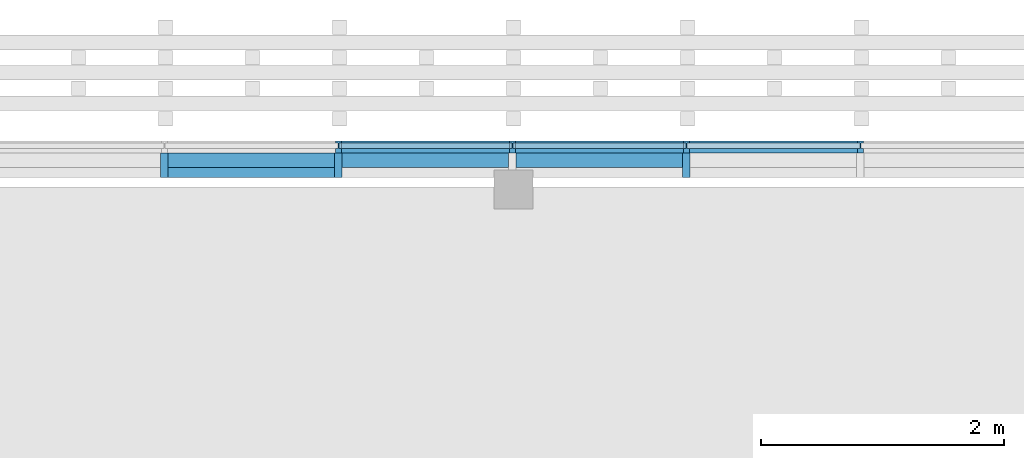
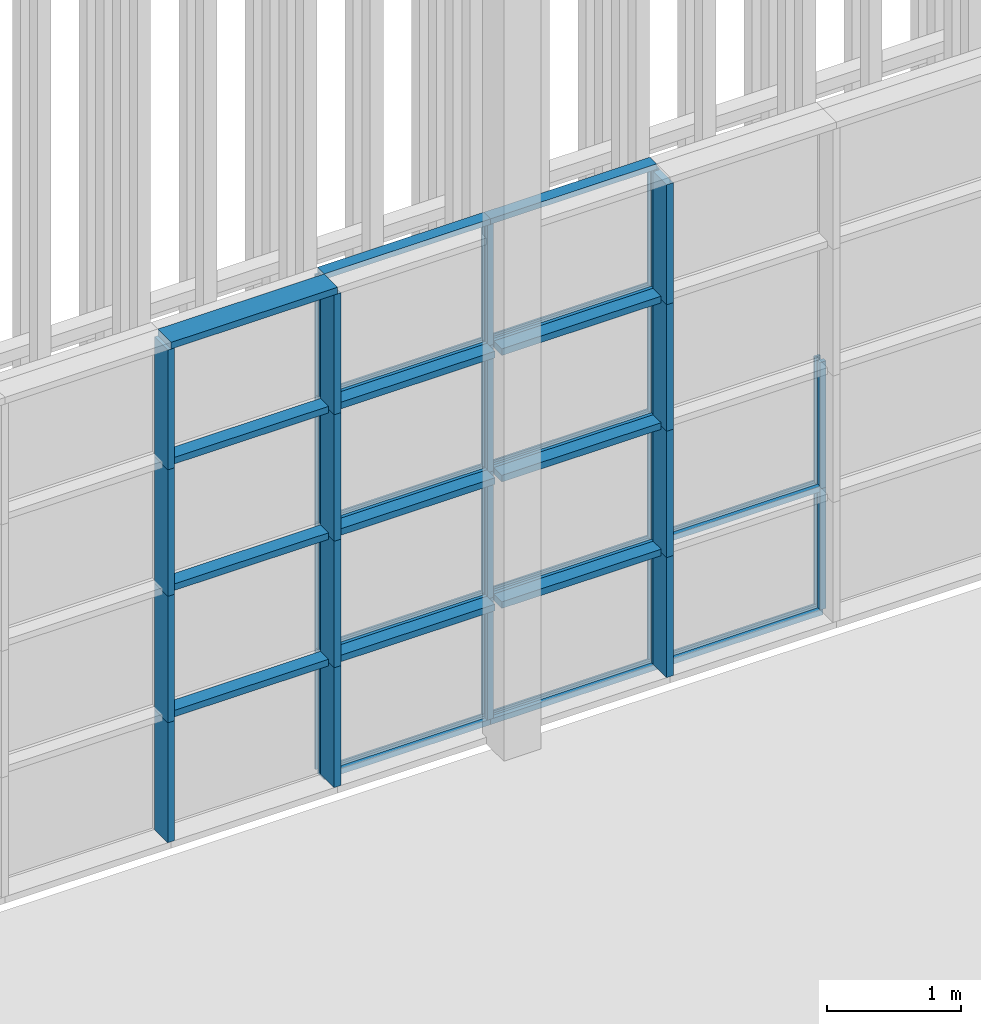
# One storey, part 35 of 260: 48 members, 2 elements without a shape of their own.
"""IFC2X3 building model written with IfcOpenShell, lengths in millimetres."""

from ifc_helpers import new_model, entity, si_unit, converted_unit, derived_unit, money_unit, direction, frame, origin_with_axes, place, context, subcontext, project, spatial, faceted_brep, source, transform, mapped, material, type_object, element, aggregate, save


model = new_model("IFC2X3")

# Units and contexts
model_context = context("Model", 3, precision=0.01, world=origin_with_axes(), true_north=direction((0.0, 1.0)))
body_context = subcontext(model_context, "Body", "Model", "MODEL_VIEW")
ifc_project = project(units=[si_unit("LENGTHUNIT", "METRE", prefix="MILLI"), si_unit("AREAUNIT", "SQUARE_METRE"), si_unit("VOLUMEUNIT", "CUBIC_METRE"), converted_unit("PLANEANGLEUNIT", "DEGREE", entity("IfcPlaneAngleMeasure", 0.0174532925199), si_unit("PLANEANGLEUNIT", "RADIAN"), dimensions=[0, 0, 0, 0, 0, 0, 0]), money_unit("EUR"), converted_unit("TIMEUNIT", "Year", entity("IfcTimeMeasure", 31556926.0), si_unit("TIMEUNIT", "SECOND"), dimensions=[0, 0, 1, 0, 0, 0, 0]), si_unit("MASSUNIT", "GRAM", prefix="KILO"), si_unit("THERMODYNAMICTEMPERATUREUNIT", "DEGREE_CELSIUS"), si_unit("LUMINOUSINTENSITYUNIT", "LUMEN"), si_unit("ENERGYUNIT", "JOULE", prefix="MEGA"), derived_unit("THERMALCONDUCTANCEUNIT", [(si_unit("POWERUNIT", "WATT"), 1), (si_unit("LENGTHUNIT", "METRE"), -1), (si_unit("THERMODYNAMICTEMPERATUREUNIT", "KELVIN"), -1)]), derived_unit("SPECIFICHEATCAPACITYUNIT", [(si_unit("ENERGYUNIT", "JOULE"), 1), (si_unit("MASSUNIT", "GRAM", prefix="KILO"), -1), (si_unit("THERMODYNAMICTEMPERATUREUNIT", "KELVIN"), -1)]), derived_unit("MASSDENSITYUNIT", [(si_unit("MASSUNIT", "GRAM", prefix="KILO"), 1), (si_unit("VOLUMEUNIT", "CUBIC_METRE"), -1)])], contexts=[model_context])

# Site, building, storey
site_placement = place(None, origin_with_axes())
site = spatial("IfcSite", under=ifc_project, at=site_placement, Name="Kolde pst 67a", CompositionType="ELEMENT")
building_placement = place(site_placement, origin_with_axes())
building = spatial("IfcBuilding", under=site, at=building_placement, Name="Riigigümnaasium", CompositionType="ELEMENT")
storey_placement = place(building_placement, origin_with_axes())
storey = spatial("IfcBuildingStorey", under=building, at=storey_placement, Name="1. korrus", CompositionType="ELEMENT", Elevation=0.0)

# Curtain wall, members
curtain_wall_type = type_object("IfcCurtainWallType", Name="Curtain Wall Type", PredefinedType="NOTDEFINED")
curtain_wall_1_placement = place(storey_placement, frame((10366.0828546, 84639.9999608, 0.0), z_axis=(0.0, 0.0, 1.0), x_axis=(1.0, 0.0, 0.0)))
curtain_wall_1 = element("IfcCurtainWall", 1, at=curtain_wall_1_placement, inside=storey, type_object=curtain_wall_type, Name="KLAASFASSAAD")
ifc_material_1 = material(Name="_METALL - alumiinium")
member_type_1 = type_object("IfcMemberType", Name="Boundary Frame 50 x 100", PredefinedType="MEMBER")
shared_shape_1 = source(origin_with_axes(), body_context, "Body", "Brep", [
    faceted_brep([(-30.0, -24.0, 1430.0), (-50.0, -24.0, 1430.0), (-50.0, -60.0, 1430.0), (0.0, -60.0, 1430.0), (0.0, 40.0, 1430.0), (-50.0, 40.0, 1430.0), (-50.0, 24.0, 1430.0), (-30.0, 24.0, 1430.0), (-30.0, -24.0, 0.0), (-50.0, -24.0, 0.0), (-50.0, -60.0, 0.0), (0.0, -60.0, 0.0), (0.0, 40.0, 0.0), (-50.0, 40.0, 0.0), (-50.0, 24.0, 0.0), (-30.0, 24.0, 0.0)], [[[0, 1, 2, 3, 4, 5, 6, 7]], [[0, 8, 9, 1]], [[9, 10, 2, 1]], [[10, 11, 3, 2]], [[11, 12, 4, 3]], [[12, 13, 5, 4]], [[6, 5, 13, 14]], [[14, 15, 7, 6]], [[7, 15, 8, 0]], [[8, 15, 14, 13, 12, 11, 10, 9]]]),
])
member_1_placement = place(curtain_wall_1_placement, frame((15015.0, 0.0, 0.0), z_axis=(1.0, 0.0, 0.0), x_axis=(0.0, 0.0, 1.0)))
member_1 = element("IfcMember", 2, at=member_1_placement, type_object=member_type_1, material=ifc_material_1, Name="RF RAAM SERV-087", ObjectType="MEMBER", context=body_context, shape_type="MappedRepresentation", body=[
    mapped(shared_shape_1, transform((0.0, 0.0, 0.0), x_axis=(-1.0, 0.0, 0.0), y_axis=(0.0, -1.0, 0.0), z_axis=(0.0, 0.0, 1.0))),
])
member_2_placement = place(curtain_wall_1_placement, frame((16445.0, 0.0, 0.0), z_axis=(1.0, 0.0, 0.0), x_axis=(0.0, 0.0, 1.0)))
member_2 = element("IfcMember", 3, at=member_2_placement, type_object=member_type_1, material=ifc_material_1, Name="RF RAAM SERV-088", ObjectType="MEMBER", context=body_context, shape_type="MappedRepresentation", body=[
    mapped(shared_shape_1, transform((0.0, 0.0, 0.0), x_axis=(-1.0, 0.0, 0.0), y_axis=(0.0, -1.0, 0.0), z_axis=(0.0, 0.0, 1.0))),
])
member_3_placement = place(curtain_wall_1_placement, frame((17875.0, 0.0, 0.0), z_axis=(1.0, 0.0, 0.0), x_axis=(0.0, 0.0, 1.0)))
member_3 = element("IfcMember", 4, at=member_3_placement, type_object=member_type_1, material=ifc_material_1, Name="RF RAAM SERV-089", ObjectType="MEMBER", context=body_context, shape_type="MappedRepresentation", body=[
    mapped(shared_shape_1, transform((0.0, 0.0, 0.0), x_axis=(-1.0, 0.0, 0.0), y_axis=(0.0, -1.0, 0.0), z_axis=(0.0, 0.0, 1.0))),
])
member_type_2 = type_object("IfcMemberType", Name="Transom Frame 50 x 100", PredefinedType="MEMBER")
shared_shape_2 = source(origin_with_axes(), body_context, "Body", "Brep", [
    faceted_brep([(5.0, -24.0, 1405.0), (5.0, 24.0, 1405.0), (25.0, 24.0, 1405.0), (25.0, 40.0, 1405.0), (-25.0, 40.0, 1405.0), (-25.0, 24.0, 1405.0), (-5.0, 24.0, 1405.0), (-5.0, -24.0, 1405.0), (-25.0, -24.0, 1405.0), (-25.0, -60.0, 1405.0), (25.0, -60.0, 1405.0), (25.0, -24.0, 1405.0), (5.0, -24.0, 25.0), (5.0, 24.0, 25.0), (25.0, 24.0, 25.0), (25.0, 40.0, 25.0), (-25.0, 40.0, 25.0), (-25.0, 24.0, 25.0), (-5.0, 24.0, 25.0), (-5.0, -24.0, 25.0), (-25.0, -24.0, 25.0), (-25.0, -60.0, 25.0), (25.0, -60.0, 25.0), (25.0, -24.0, 25.0)], [[[0, 1, 2, 3, 4, 5, 6, 7, 8, 9, 10, 11]], [[0, 12, 13, 1]], [[1, 13, 14, 2]], [[14, 15, 3, 2]], [[4, 3, 15, 16]], [[17, 5, 4, 16]], [[5, 17, 18, 6]], [[7, 6, 18, 19]], [[8, 7, 19, 20]], [[8, 20, 21, 9]], [[10, 9, 21, 22]], [[11, 10, 22, 23]], [[11, 23, 12, 0]], [[13, 12, 23, 22, 21, 20, 19, 18, 17, 16, 15, 14]]]),
])
member_4_placement = place(curtain_wall_1_placement, frame((15015.0, 0.0, 1150.0), z_axis=(1.0, 0.0, 0.0), x_axis=(0.0, 0.0, 1.0)))
member_4 = element("IfcMember", 5, at=member_4_placement, type_object=member_type_2, material=ifc_material_1, Name="RF RAAM HOR-798", ObjectType="MEMBER", context=body_context, shape_type="MappedRepresentation", body=[
    mapped(shared_shape_2, transform((0.0, 0.0, 0.0), x_axis=(-1.0, 0.0, 0.0), y_axis=(0.0, -1.0, 0.0), z_axis=(0.0, 0.0, 1.0))),
])
member_5_placement = place(curtain_wall_1_placement, frame((16445.0, 0.0, 1150.0), z_axis=(1.0, 0.0, 0.0), x_axis=(0.0, 0.0, 1.0)))
member_5 = element("IfcMember", 6, at=member_5_placement, type_object=member_type_2, material=ifc_material_1, Name="RF RAAM HOR-798", ObjectType="MEMBER", context=body_context, shape_type="MappedRepresentation", body=[
    mapped(shared_shape_2, transform((0.0, 0.0, 0.0), x_axis=(-1.0, 0.0, 0.0), y_axis=(0.0, -1.0, 0.0), z_axis=(0.0, 0.0, 1.0))),
])
member_6_placement = place(curtain_wall_1_placement, frame((17875.0, 0.0, 1150.0), z_axis=(1.0, 0.0, 0.0), x_axis=(0.0, 0.0, 1.0)))
member_6 = element("IfcMember", 7, at=member_6_placement, type_object=member_type_2, material=ifc_material_1, Name="RF RAAM HOR-798", ObjectType="MEMBER", context=body_context, shape_type="MappedRepresentation", body=[
    mapped(shared_shape_2, transform((0.0, 0.0, 0.0), x_axis=(-1.0, 0.0, 0.0), y_axis=(0.0, -1.0, 0.0), z_axis=(0.0, 0.0, 1.0))),
])
member_7_placement = place(curtain_wall_1_placement, frame((15015.0, 0.0, 2300.0), z_axis=(1.0, 0.0, 0.0), x_axis=(0.0, 0.0, 1.0)))
member_7 = element("IfcMember", 8, at=member_7_placement, type_object=member_type_2, material=ifc_material_1, Name="RF RAAM HOR-798", ObjectType="MEMBER", context=body_context, shape_type="MappedRepresentation", body=[
    mapped(shared_shape_2, transform((0.0, 0.0, 0.0), x_axis=(-1.0, 0.0, 0.0), y_axis=(0.0, -1.0, 0.0), z_axis=(0.0, 0.0, 1.0))),
])
member_8_placement = place(curtain_wall_1_placement, frame((16445.0, 0.0, 2300.0), z_axis=(1.0, 0.0, 0.0), x_axis=(0.0, 0.0, 1.0)))
member_8 = element("IfcMember", 9, at=member_8_placement, type_object=member_type_2, material=ifc_material_1, Name="RF RAAM HOR-798", ObjectType="MEMBER", context=body_context, shape_type="MappedRepresentation", body=[
    mapped(shared_shape_2, transform((0.0, 0.0, 0.0), x_axis=(-1.0, 0.0, 0.0), y_axis=(0.0, -1.0, 0.0), z_axis=(0.0, 0.0, 1.0))),
])
member_9_placement = place(curtain_wall_1_placement, frame((15015.0, 0.0, 3450.0), z_axis=(1.0, 0.0, 0.0), x_axis=(0.0, 0.0, 1.0)))
member_9 = element("IfcMember", 10, at=member_9_placement, type_object=member_type_2, material=ifc_material_1, Name="RF RAAM HOR-798", ObjectType="MEMBER", context=body_context, shape_type="MappedRepresentation", body=[
    mapped(shared_shape_2, transform((0.0, 0.0, 0.0), x_axis=(-1.0, 0.0, 0.0), y_axis=(0.0, -1.0, 0.0), z_axis=(0.0, 0.0, 1.0))),
])
member_10_placement = place(curtain_wall_1_placement, frame((16445.0, 0.0, 3450.0), z_axis=(1.0, 0.0, 0.0), x_axis=(0.0, 0.0, 1.0)))
member_10 = element("IfcMember", 11, at=member_10_placement, type_object=member_type_2, material=ifc_material_1, Name="RF RAAM HOR-798", ObjectType="MEMBER", context=body_context, shape_type="MappedRepresentation", body=[
    mapped(shared_shape_2, transform((0.0, 0.0, 0.0), x_axis=(-1.0, 0.0, 0.0), y_axis=(0.0, -1.0, 0.0), z_axis=(0.0, 0.0, 1.0))),
])
member_type_3 = type_object("IfcMemberType", Name="Mullion Frame 50 x 100", PredefinedType="MEMBER")
shared_shape_3 = source(origin_with_axes(), body_context, "Body", "Brep", [
    faceted_brep([(5.0, -24.0, 1150.0), (5.0, 24.0, 1150.0), (25.0, 24.0, 1150.0), (25.0, 40.0, 1150.0), (-25.0, 40.0, 1150.0), (-25.0, 24.0, 1150.0), (-5.0, 24.0, 1150.0), (-5.0, -24.0, 1150.0), (-25.0, -24.0, 1150.0), (-25.0, -60.0, 1150.0), (25.0, -60.0, 1150.0), (25.0, -24.0, 1150.0), (5.0, -24.0, 50.0), (5.0, 24.0, 50.0), (25.0, 24.0, 50.0), (25.0, 40.0, 50.0), (-25.0, 40.0, 50.0), (-25.0, 24.0, 50.0), (-5.0, 24.0, 50.0), (-5.0, -24.0, 50.0), (-25.0, -24.0, 50.0), (-25.0, -60.0, 50.0), (25.0, -60.0, 50.0), (25.0, -24.0, 50.0)], [[[0, 1, 2, 3, 4, 5, 6, 7, 8, 9, 10, 11]], [[0, 12, 13, 1]], [[1, 13, 14, 2]], [[14, 15, 3, 2]], [[4, 3, 15, 16]], [[17, 5, 4, 16]], [[5, 17, 18, 6]], [[7, 6, 18, 19]], [[8, 7, 19, 20]], [[8, 20, 21, 9]], [[10, 9, 21, 22]], [[11, 10, 22, 23]], [[11, 23, 12, 0]], [[13, 12, 23, 22, 21, 20, 19, 18, 17, 16, 15, 14]]]),
])
member_11_placement = place(curtain_wall_1_placement, frame((15015.0, 0.0, 0.0), z_axis=(0.0, 0.0, 1.0), x_axis=(-1.0, 0.0, 0.0)))
member_11 = element("IfcMember", 12, at=member_11_placement, type_object=member_type_3, material=ifc_material_1, Name="RF RAAM VERT-904", ObjectType="MEMBER", context=body_context, shape_type="MappedRepresentation", body=[
    mapped(shared_shape_3, transform((0.0, 0.0, 0.0), x_axis=(-1.0, 0.0, 0.0), y_axis=(0.0, -1.0, 0.0), z_axis=(0.0, 0.0, 1.0))),
])
member_12_placement = place(curtain_wall_1_placement, frame((16445.0, 0.0, 0.0), z_axis=(0.0, 0.0, 1.0), x_axis=(-1.0, 0.0, 0.0)))
member_12 = element("IfcMember", 13, at=member_12_placement, type_object=member_type_3, material=ifc_material_1, Name="RF RAAM VERT-904", ObjectType="MEMBER", context=body_context, shape_type="MappedRepresentation", body=[
    mapped(shared_shape_3, transform((0.0, 0.0, 0.0), x_axis=(-1.0, 0.0, 0.0), y_axis=(0.0, -1.0, 0.0), z_axis=(0.0, 0.0, 1.0))),
])
member_13_placement = place(curtain_wall_1_placement, frame((17875.0, 0.0, 0.0), z_axis=(0.0, 0.0, 1.0), x_axis=(-1.0, 0.0, 0.0)))
member_13 = element("IfcMember", 14, at=member_13_placement, type_object=member_type_3, material=ifc_material_1, Name="RF RAAM VERT-904", ObjectType="MEMBER", context=body_context, shape_type="MappedRepresentation", body=[
    mapped(shared_shape_3, transform((0.0, 0.0, 0.0), x_axis=(-1.0, 0.0, 0.0), y_axis=(0.0, -1.0, 0.0), z_axis=(0.0, 0.0, 1.0))),
])
member_14_placement = place(curtain_wall_1_placement, frame((19305.0, 0.0, 0.0), z_axis=(0.0, 0.0, 1.0), x_axis=(-1.0, 0.0, 0.0)))
member_14 = element("IfcMember", 15, at=member_14_placement, type_object=member_type_3, material=ifc_material_1, Name="RF RAAM VERT-904", ObjectType="MEMBER", context=body_context, shape_type="MappedRepresentation", body=[
    mapped(shared_shape_3, transform((0.0, 0.0, 0.0), x_axis=(-1.0, 0.0, 0.0), y_axis=(0.0, -1.0, 0.0), z_axis=(0.0, 0.0, 1.0))),
])
shared_shape_4 = source(origin_with_axes(), body_context, "Body", "Brep", [
    faceted_brep([(5.0, -24.0, 1150.0), (5.0, 24.0, 1150.0), (25.0, 24.0, 1150.0), (25.0, 40.0, 1150.0), (-25.0, 40.0, 1150.0), (-25.0, 24.0, 1150.0), (-5.0, 24.0, 1150.0), (-5.0, -24.0, 1150.0), (-25.0, -24.0, 1150.0), (-25.0, -60.0, 1150.0), (25.0, -60.0, 1150.0), (25.0, -24.0, 1150.0), (5.0, -24.0, 0.0), (5.0, 24.0, 0.0), (25.0, 24.0, 0.0), (25.0, 40.0, 0.0), (-25.0, 40.0, 0.0), (-25.0, 24.0, 0.0), (-5.0, 24.0, 0.0), (-5.0, -24.0, 0.0), (-25.0, -24.0, 0.0), (-25.0, -60.0, 0.0), (25.0, -60.0, 0.0), (25.0, -24.0, 0.0)], [[[0, 1, 2, 3, 4, 5, 6, 7, 8, 9, 10, 11]], [[0, 12, 13, 1]], [[1, 13, 14, 2]], [[14, 15, 3, 2]], [[3, 15, 16, 4]], [[17, 5, 4, 16]], [[5, 17, 18, 6]], [[7, 6, 18, 19]], [[8, 7, 19, 20]], [[8, 20, 21, 9]], [[9, 21, 22, 10]], [[11, 10, 22, 23]], [[11, 23, 12, 0]], [[13, 12, 23, 22, 21, 20, 19, 18, 17, 16, 15, 14]]]),
])
member_15_placement = place(curtain_wall_1_placement, frame((15015.0, 0.0, 1150.0), z_axis=(0.0, 0.0, 1.0), x_axis=(-1.0, 0.0, 0.0)))
member_15 = element("IfcMember", 16, at=member_15_placement, type_object=member_type_3, material=ifc_material_1, Name="RF RAAM VERT-904", ObjectType="MEMBER", context=body_context, shape_type="MappedRepresentation", body=[
    mapped(shared_shape_4, transform((0.0, 0.0, 0.0), x_axis=(-1.0, 0.0, 0.0), y_axis=(0.0, -1.0, 0.0), z_axis=(0.0, 0.0, 1.0))),
])
member_16_placement = place(curtain_wall_1_placement, frame((16445.0, 0.0, 1150.0), z_axis=(0.0, 0.0, 1.0), x_axis=(-1.0, 0.0, 0.0)))
member_16 = element("IfcMember", 17, at=member_16_placement, type_object=member_type_3, material=ifc_material_1, Name="RF RAAM VERT-904", ObjectType="MEMBER", context=body_context, shape_type="MappedRepresentation", body=[
    mapped(shared_shape_4, transform((0.0, 0.0, 0.0), x_axis=(-1.0, 0.0, 0.0), y_axis=(0.0, -1.0, 0.0), z_axis=(0.0, 0.0, 1.0))),
])
member_17_placement = place(curtain_wall_1_placement, frame((17875.0, 0.0, 1150.0), z_axis=(0.0, 0.0, 1.0), x_axis=(-1.0, 0.0, 0.0)))
member_17 = element("IfcMember", 18, at=member_17_placement, type_object=member_type_3, material=ifc_material_1, Name="RF RAAM VERT-904", ObjectType="MEMBER", context=body_context, shape_type="MappedRepresentation", body=[
    mapped(shared_shape_4, transform((0.0, 0.0, 0.0), x_axis=(-1.0, 0.0, 0.0), y_axis=(0.0, -1.0, 0.0), z_axis=(0.0, 0.0, 1.0))),
])
member_18_placement = place(curtain_wall_1_placement, frame((19305.0, 0.0, 1150.0), z_axis=(0.0, 0.0, 1.0), x_axis=(-1.0, 0.0, 0.0)))
member_18 = element("IfcMember", 19, at=member_18_placement, type_object=member_type_3, material=ifc_material_1, Name="RF RAAM VERT-904", ObjectType="MEMBER", context=body_context, shape_type="MappedRepresentation", body=[
    mapped(shared_shape_4, transform((0.0, 0.0, 0.0), x_axis=(-1.0, 0.0, 0.0), y_axis=(0.0, -1.0, 0.0), z_axis=(0.0, 0.0, 1.0))),
])
member_19_placement = place(curtain_wall_1_placement, frame((15015.0, 0.0, 2300.0), z_axis=(0.0, 0.0, 1.0), x_axis=(-1.0, 0.0, 0.0)))
member_19 = element("IfcMember", 20, at=member_19_placement, type_object=member_type_3, material=ifc_material_1, Name="RF RAAM VERT-904", ObjectType="MEMBER", context=body_context, shape_type="MappedRepresentation", body=[
    mapped(shared_shape_4, transform((0.0, 0.0, 0.0), x_axis=(-1.0, 0.0, 0.0), y_axis=(0.0, -1.0, 0.0), z_axis=(0.0, 0.0, 1.0))),
])
member_20_placement = place(curtain_wall_1_placement, frame((16445.0, 0.0, 2300.0), z_axis=(0.0, 0.0, 1.0), x_axis=(-1.0, 0.0, 0.0)))
member_20 = element("IfcMember", 21, at=member_20_placement, type_object=member_type_3, material=ifc_material_1, Name="RF RAAM VERT-904", ObjectType="MEMBER", context=body_context, shape_type="MappedRepresentation", body=[
    mapped(shared_shape_4, transform((0.0, 0.0, 0.0), x_axis=(-1.0, 0.0, 0.0), y_axis=(0.0, -1.0, 0.0), z_axis=(0.0, 0.0, 1.0))),
])
member_21_placement = place(curtain_wall_1_placement, frame((17875.0, 0.0, 2300.0), z_axis=(0.0, 0.0, 1.0), x_axis=(-1.0, 0.0, 0.0)))
member_21 = element("IfcMember", 22, at=member_21_placement, type_object=member_type_3, material=ifc_material_1, Name="RF RAAM VERT-904", ObjectType="MEMBER", context=body_context, shape_type="MappedRepresentation", body=[
    mapped(shared_shape_4, transform((0.0, 0.0, 0.0), x_axis=(-1.0, 0.0, 0.0), y_axis=(0.0, -1.0, 0.0), z_axis=(0.0, 0.0, 1.0))),
])
shared_shape_5 = source(origin_with_axes(), body_context, "Body", "Brep", [
    faceted_brep([(5.0, -24.0, 1100.0), (5.0, 24.0, 1100.0), (25.0, 24.0, 1100.0), (25.0, 40.0, 1100.0), (-25.0, 40.0, 1100.0), (-25.0, 24.0, 1100.0), (-5.0, 24.0, 1100.0), (-5.0, -24.0, 1100.0), (-25.0, -24.0, 1100.0), (-25.0, -60.0, 1100.0), (25.0, -60.0, 1100.0), (25.0, -24.0, 1100.0), (5.0, -24.0, 0.0), (5.0, 24.0, 0.0), (25.0, 24.0, 0.0), (25.0, 40.0, 0.0), (-25.0, 40.0, 0.0), (-25.0, 24.0, 0.0), (-5.0, 24.0, 0.0), (-5.0, -24.0, 0.0), (-25.0, -24.0, 0.0), (-25.0, -60.0, 0.0), (25.0, -60.0, 0.0), (25.0, -24.0, 0.0)], [[[0, 1, 2, 3, 4, 5, 6, 7, 8, 9, 10, 11]], [[0, 12, 13, 1]], [[1, 13, 14, 2]], [[14, 15, 3, 2]], [[3, 15, 16, 4]], [[17, 5, 4, 16]], [[5, 17, 18, 6]], [[7, 6, 18, 19]], [[8, 7, 19, 20]], [[8, 20, 21, 9]], [[9, 21, 22, 10]], [[11, 10, 22, 23]], [[11, 23, 12, 0]], [[13, 12, 23, 22, 21, 20, 19, 18, 17, 16, 15, 14]]]),
])
member_22_placement = place(curtain_wall_1_placement, frame((15015.0, 0.0, 3450.0), z_axis=(0.0, 0.0, 1.0), x_axis=(-1.0, 0.0, 0.0)))
member_22 = element("IfcMember", 23, at=member_22_placement, type_object=member_type_3, material=ifc_material_1, Name="RF RAAM VERT-235", ObjectType="MEMBER", context=body_context, shape_type="MappedRepresentation", body=[
    mapped(shared_shape_5, transform((0.0, 0.0, 0.0), x_axis=(-1.0, 0.0, 0.0), y_axis=(0.0, -1.0, 0.0), z_axis=(0.0, 0.0, 1.0))),
])
member_23_placement = place(curtain_wall_1_placement, frame((16445.0, 0.0, 3450.0), z_axis=(0.0, 0.0, 1.0), x_axis=(-1.0, 0.0, 0.0)))
member_23 = element("IfcMember", 24, at=member_23_placement, type_object=member_type_3, material=ifc_material_1, Name="RF RAAM VERT-236", ObjectType="MEMBER", context=body_context, shape_type="MappedRepresentation", body=[
    mapped(shared_shape_5, transform((0.0, 0.0, 0.0), x_axis=(-1.0, 0.0, 0.0), y_axis=(0.0, -1.0, 0.0), z_axis=(0.0, 0.0, 1.0))),
])
member_24_placement = place(curtain_wall_1_placement, frame((17875.0, 0.0, 3450.0), z_axis=(0.0, 0.0, 1.0), x_axis=(-1.0, 0.0, 0.0)))
member_24 = element("IfcMember", 25, at=member_24_placement, type_object=member_type_3, material=ifc_material_1, Name="RF RAAM VERT-237", ObjectType="MEMBER", context=body_context, shape_type="MappedRepresentation", body=[
    mapped(shared_shape_5, transform((0.0, 0.0, 0.0), x_axis=(-1.0, 0.0, 0.0), y_axis=(0.0, -1.0, 0.0), z_axis=(0.0, 0.0, 1.0))),
])
shared_shape_6 = source(origin_with_axes(), body_context, "Body", "Brep", [
    faceted_brep([(30.0, -24.0, 1430.0), (30.0, 24.0, 1430.0), (50.0, 24.0, 1430.0), (50.0, 40.0, 1430.0), (0.0, 40.0, 1430.0), (0.0, -60.0, 1430.0), (50.0, -60.0, 1430.0), (50.0, -24.0, 1430.0), (30.0, -24.0, 0.0), (30.0, 24.0, 0.0), (50.0, 24.0, 0.0), (50.0, 40.0, 0.0), (0.0, 40.0, 0.0), (0.0, -60.0, 0.0), (50.0, -60.0, 0.0), (50.0, -24.0, 0.0)], [[[0, 1, 2, 3, 4, 5, 6, 7]], [[1, 0, 8, 9]], [[10, 2, 1, 9]], [[2, 10, 11, 3]], [[12, 4, 3, 11]], [[13, 5, 4, 12]], [[14, 6, 5, 13]], [[15, 7, 6, 14]], [[0, 7, 15, 8]], [[8, 15, 14, 13, 12, 11, 10, 9]]]),
])
member_25_placement = place(curtain_wall_1_placement, frame((15015.0, 0.0, 4600.0), z_axis=(1.0, 0.0, 0.0), x_axis=(0.0, 0.0, 1.0)))
member_25 = element("IfcMember", 26, at=member_25_placement, type_object=member_type_1, material=ifc_material_1, Name="RF RAAM SERV-106", ObjectType="MEMBER", context=body_context, shape_type="MappedRepresentation", body=[
    mapped(shared_shape_6, transform((0.0, 0.0, 0.0), x_axis=(-1.0, 0.0, 0.0), y_axis=(0.0, -1.0, 0.0), z_axis=(0.0, 0.0, 1.0))),
])
member_26_placement = place(curtain_wall_1_placement, frame((16445.0, 0.0, 4600.0), z_axis=(1.0, 0.0, 0.0), x_axis=(0.0, 0.0, 1.0)))
member_26 = element("IfcMember", 27, at=member_26_placement, type_object=member_type_1, material=ifc_material_1, Name="RF RAAM SERV-105", ObjectType="MEMBER", context=body_context, shape_type="MappedRepresentation", body=[
    mapped(shared_shape_6, transform((0.0, 0.0, 0.0), x_axis=(-1.0, 0.0, 0.0), y_axis=(0.0, -1.0, 0.0), z_axis=(0.0, 0.0, 1.0))),
])
aggregate(curtain_wall_1, [member_1, member_11, member_2, member_12, member_3, member_13, member_14, member_4, member_15, member_5, member_16, member_6, member_17, member_18, member_7, member_19, member_8, member_20, member_21, member_9, member_10, member_22, member_23, member_24, member_25, member_26])

curtain_wall_2_placement = place(storey_placement, frame((7516.12873899, 84579.9999608, 0.0), z_axis=(0.0, 0.0, 1.0), x_axis=(1.0, 0.0, 0.0)))
curtain_wall_2 = element("IfcCurtainWall", 28, at=curtain_wall_2_placement, inside=storey, type_object=curtain_wall_type, Name="Klaasfassaadi puitkarkass")
ifc_material_2 = material(Name="_KANDETARIND - liimpuit vastavalt EK osale")
member_type_4 = type_object("IfcMemberType", Name="Mullion Frame 60 x 200", PredefinedType="MEMBER")
shared_shape_7 = source(origin_with_axes(), body_context, "Body", "Brep", [
    faceted_brep([(-30.0, -200.0, 0.0), (-30.0, -200.0, 1090.0), (-30.0, 0.0, 1090.0), (-30.0, 0.0, 0.0), (30.0, -200.0, 0.0), (30.0, -200.0, 1090.0), (30.0, 0.0, 1090.0), (30.0, 0.0, 0.0)], [[[0, 1, 2, 3]], [[4, 5, 1, 0]], [[1, 5, 6, 2]], [[3, 2, 6, 7]], [[0, 3, 7, 4]], [[7, 6, 5, 4]]]),
])
member_27_placement = place(curtain_wall_2_placement, frame((16433.6284674, 0.0, 3450.0), z_axis=(0.0, 0.0, 1.0), x_axis=(-1.0, 0.0, 0.0)))
member_27 = element("IfcMember", 29, at=member_27_placement, type_object=member_type_4, material=ifc_material_2, Name="RF RAAM VERT-682", ObjectType="MEMBER", context=body_context, shape_type="MappedRepresentation", body=[
    mapped(shared_shape_7, transform((0.0, 0.0, 0.0), x_axis=(-1.0, 0.0, 0.0), y_axis=(0.0, -1.0, 0.0), z_axis=(0.0, 0.0, 1.0))),
])
member_28_placement = place(curtain_wall_2_placement, frame((17863.6284674, 0.0, 3450.0), z_axis=(0.0, 0.0, 1.0), x_axis=(-1.0, 0.0, 0.0)))
member_28 = element("IfcMember", 30, at=member_28_placement, type_object=member_type_4, material=ifc_material_2, Name="RF RAAM VERT-683", ObjectType="MEMBER", context=body_context, shape_type="MappedRepresentation", body=[
    mapped(shared_shape_7, transform((0.0, 0.0, 0.0), x_axis=(-1.0, 0.0, 0.0), y_axis=(0.0, -1.0, 0.0), z_axis=(0.0, 0.0, 1.0))),
])
member_29_placement = place(curtain_wall_2_placement, frame((20723.6284674, 0.0, 3450.0), z_axis=(0.0, 0.0, 1.0), x_axis=(-1.0, 0.0, 0.0)))
member_29 = element("IfcMember", 31, at=member_29_placement, type_object=member_type_4, material=ifc_material_2, Name="RF RAAM VERT-685", ObjectType="MEMBER", context=body_context, shape_type="MappedRepresentation", body=[
    mapped(shared_shape_7, transform((0.0, 0.0, 0.0), x_axis=(-1.0, 0.0, 0.0), y_axis=(0.0, -1.0, 0.0), z_axis=(0.0, 0.0, 1.0))),
])
shared_shape_8 = source(origin_with_axes(), body_context, "Body", "Brep", [
    faceted_brep([(-30.0, 0.0, 60.0), (-30.0, -200.0, 60.0), (-30.0, -200.0, 1150.0), (-30.0, 0.0, 1150.0), (30.0, 0.0, 60.0), (30.0, -200.0, 60.0), (30.0, -200.0, 1150.0), (30.0, 0.0, 1150.0)], [[[0, 1, 2, 3]], [[1, 0, 4, 5]], [[1, 5, 6, 2]], [[2, 6, 7, 3]], [[4, 0, 3, 7]], [[5, 4, 7, 6]]]),
])
member_30_placement = place(curtain_wall_2_placement, frame((16433.6284674, 0.0, 0.0), z_axis=(0.0, 0.0, 1.0), x_axis=(-1.0, 0.0, 0.0)))
member_30 = element("IfcMember", 32, at=member_30_placement, type_object=member_type_4, material=ifc_material_2, Name="RF RAAM VERT-467", ObjectType="MEMBER", context=body_context, shape_type="MappedRepresentation", body=[
    mapped(shared_shape_8, transform((0.0, 0.0, 0.0), x_axis=(-1.0, 0.0, 0.0), y_axis=(0.0, -1.0, 0.0), z_axis=(0.0, 0.0, 1.0))),
])
member_31_placement = place(curtain_wall_2_placement, frame((17863.6284674, 0.0, 0.0), z_axis=(0.0, 0.0, 1.0), x_axis=(-1.0, 0.0, 0.0)))
member_31 = element("IfcMember", 33, at=member_31_placement, type_object=member_type_4, material=ifc_material_2, Name="RF RAAM VERT-468", ObjectType="MEMBER", context=body_context, shape_type="MappedRepresentation", body=[
    mapped(shared_shape_8, transform((0.0, 0.0, 0.0), x_axis=(-1.0, 0.0, 0.0), y_axis=(0.0, -1.0, 0.0), z_axis=(0.0, 0.0, 1.0))),
])
member_32_placement = place(curtain_wall_2_placement, frame((20723.6284674, 0.0, 0.0), z_axis=(0.0, 0.0, 1.0), x_axis=(-1.0, 0.0, 0.0)))
member_32 = element("IfcMember", 34, at=member_32_placement, type_object=member_type_4, material=ifc_material_2, Name="RF RAAM VERT-470", ObjectType="MEMBER", context=body_context, shape_type="MappedRepresentation", body=[
    mapped(shared_shape_8, transform((0.0, 0.0, 0.0), x_axis=(-1.0, 0.0, 0.0), y_axis=(0.0, -1.0, 0.0), z_axis=(0.0, 0.0, 1.0))),
])
member_type_5 = type_object("IfcMemberType", Name="Transom Frame 60 x 120", PredefinedType="MEMBER")
shared_shape_9 = source(origin_with_axes(), body_context, "Body", "Brep", [
    faceted_brep([(-30.0, 0.0, 30.0), (-30.0, -120.0, 30.0), (-30.0, -120.0, 1400.0), (-30.0, 0.0, 1400.0), (30.0, 0.0, 30.0), (30.0, -120.0, 30.0), (30.0, -120.0, 1400.0), (30.0, 0.0, 1400.0)], [[[0, 1, 2, 3]], [[1, 0, 4, 5]], [[1, 5, 6, 2]], [[2, 6, 7, 3]], [[4, 0, 3, 7]], [[5, 4, 7, 6]]]),
])
member_33_placement = place(curtain_wall_2_placement, frame((16433.6284674, 0.0, 1150.0), z_axis=(1.0, 0.0, 0.0), x_axis=(0.0, 0.0, 1.0)))
member_33 = element("IfcMember", 35, at=member_33_placement, type_object=member_type_5, material=ifc_material_2, Name="RF RAAM HOR-462", ObjectType="MEMBER", context=body_context, shape_type="MappedRepresentation", body=[
    mapped(shared_shape_9, transform((0.0, 0.0, 0.0), x_axis=(-1.0, 0.0, 0.0), y_axis=(0.0, -1.0, 0.0), z_axis=(0.0, 0.0, 1.0))),
])
member_34_placement = place(curtain_wall_2_placement, frame((17863.6284674, 0.0, 1150.0), z_axis=(1.0, 0.0, 0.0), x_axis=(0.0, 0.0, 1.0)))
member_34 = element("IfcMember", 36, at=member_34_placement, type_object=member_type_5, material=ifc_material_2, Name="RF RAAM HOR-463", ObjectType="MEMBER", context=body_context, shape_type="MappedRepresentation", body=[
    mapped(shared_shape_9, transform((0.0, 0.0, 0.0), x_axis=(-1.0, 0.0, 0.0), y_axis=(0.0, -1.0, 0.0), z_axis=(0.0, 0.0, 1.0))),
])
member_35_placement = place(curtain_wall_2_placement, frame((19293.6284674, 0.0, 1150.0), z_axis=(1.0, 0.0, 0.0), x_axis=(0.0, 0.0, 1.0)))
member_35 = element("IfcMember", 37, at=member_35_placement, type_object=member_type_5, material=ifc_material_2, Name="RF RAAM HOR-464", ObjectType="MEMBER", context=body_context, shape_type="MappedRepresentation", body=[
    mapped(shared_shape_9, transform((0.0, 0.0, 0.0), x_axis=(-1.0, 0.0, 0.0), y_axis=(0.0, -1.0, 0.0), z_axis=(0.0, 0.0, 1.0))),
])
member_36_placement = place(curtain_wall_2_placement, frame((16433.6284674, 0.0, 2300.0), z_axis=(1.0, 0.0, 0.0), x_axis=(0.0, 0.0, 1.0)))
member_36 = element("IfcMember", 38, at=member_36_placement, type_object=member_type_5, material=ifc_material_2, Name="RF RAAM HOR-485", ObjectType="MEMBER", context=body_context, shape_type="MappedRepresentation", body=[
    mapped(shared_shape_9, transform((0.0, 0.0, 0.0), x_axis=(-1.0, 0.0, 0.0), y_axis=(0.0, -1.0, 0.0), z_axis=(0.0, 0.0, 1.0))),
])
member_37_placement = place(curtain_wall_2_placement, frame((17863.6284674, 0.0, 2300.0), z_axis=(1.0, 0.0, 0.0), x_axis=(0.0, 0.0, 1.0)))
member_37 = element("IfcMember", 39, at=member_37_placement, type_object=member_type_5, material=ifc_material_2, Name="RF RAAM HOR-486", ObjectType="MEMBER", context=body_context, shape_type="MappedRepresentation", body=[
    mapped(shared_shape_9, transform((0.0, 0.0, 0.0), x_axis=(-1.0, 0.0, 0.0), y_axis=(0.0, -1.0, 0.0), z_axis=(0.0, 0.0, 1.0))),
])
member_38_placement = place(curtain_wall_2_placement, frame((19293.6284674, 0.0, 2300.0), z_axis=(1.0, 0.0, 0.0), x_axis=(0.0, 0.0, 1.0)))
member_38 = element("IfcMember", 40, at=member_38_placement, type_object=member_type_5, material=ifc_material_2, Name="RF RAAM HOR-487", ObjectType="MEMBER", context=body_context, shape_type="MappedRepresentation", body=[
    mapped(shared_shape_9, transform((0.0, 0.0, 0.0), x_axis=(-1.0, 0.0, 0.0), y_axis=(0.0, -1.0, 0.0), z_axis=(0.0, 0.0, 1.0))),
])
member_39_placement = place(curtain_wall_2_placement, frame((16433.6284674, 0.0, 3450.0), z_axis=(1.0, 0.0, 0.0), x_axis=(0.0, 0.0, 1.0)))
member_39 = element("IfcMember", 41, at=member_39_placement, type_object=member_type_5, material=ifc_material_2, Name="RF RAAM HOR-508", ObjectType="MEMBER", context=body_context, shape_type="MappedRepresentation", body=[
    mapped(shared_shape_9, transform((0.0, 0.0, 0.0), x_axis=(-1.0, 0.0, 0.0), y_axis=(0.0, -1.0, 0.0), z_axis=(0.0, 0.0, 1.0))),
])
member_40_placement = place(curtain_wall_2_placement, frame((17863.6284674, 0.0, 3450.0), z_axis=(1.0, 0.0, 0.0), x_axis=(0.0, 0.0, 1.0)))
member_40 = element("IfcMember", 42, at=member_40_placement, type_object=member_type_5, material=ifc_material_2, Name="RF RAAM HOR-509", ObjectType="MEMBER", context=body_context, shape_type="MappedRepresentation", body=[
    mapped(shared_shape_9, transform((0.0, 0.0, 0.0), x_axis=(-1.0, 0.0, 0.0), y_axis=(0.0, -1.0, 0.0), z_axis=(0.0, 0.0, 1.0))),
])
member_41_placement = place(curtain_wall_2_placement, frame((19293.6284674, 0.0, 3450.0), z_axis=(1.0, 0.0, 0.0), x_axis=(0.0, 0.0, 1.0)))
member_41 = element("IfcMember", 43, at=member_41_placement, type_object=member_type_5, material=ifc_material_2, Name="RF RAAM HOR-510", ObjectType="MEMBER", context=body_context, shape_type="MappedRepresentation", body=[
    mapped(shared_shape_9, transform((0.0, 0.0, 0.0), x_axis=(-1.0, 0.0, 0.0), y_axis=(0.0, -1.0, 0.0), z_axis=(0.0, 0.0, 1.0))),
])
shared_shape_10 = source(origin_with_axes(), body_context, "Body", "Brep", [
    faceted_brep([(-30.0, -200.0, 0.0), (-30.0, -200.0, 1150.0), (-30.0, 0.0, 1150.0), (-30.0, 0.0, 0.0), (30.0, -200.0, 0.0), (30.0, -200.0, 1150.0), (30.0, 0.0, 1150.0), (30.0, 0.0, 0.0)], [[[0, 1, 2, 3]], [[4, 5, 1, 0]], [[1, 5, 6, 2]], [[3, 2, 6, 7]], [[0, 3, 7, 4]], [[7, 6, 5, 4]]]),
])
member_42_placement = place(curtain_wall_2_placement, frame((16433.6284674, 0.0, 1150.0), z_axis=(0.0, 0.0, 1.0), x_axis=(-1.0, 0.0, 0.0)))
member_42 = element("IfcMember", 44, at=member_42_placement, type_object=member_type_4, material=ifc_material_2, Name="RF RAAM VERT-489", ObjectType="MEMBER", context=body_context, shape_type="MappedRepresentation", body=[
    mapped(shared_shape_10, transform((0.0, 0.0, 0.0), x_axis=(-1.0, 0.0, 0.0), y_axis=(0.0, -1.0, 0.0), z_axis=(0.0, 0.0, 1.0))),
])
member_43_placement = place(curtain_wall_2_placement, frame((17863.6284674, 0.0, 1150.0), z_axis=(0.0, 0.0, 1.0), x_axis=(-1.0, 0.0, 0.0)))
member_43 = element("IfcMember", 45, at=member_43_placement, type_object=member_type_4, material=ifc_material_2, Name="RF RAAM VERT-490", ObjectType="MEMBER", context=body_context, shape_type="MappedRepresentation", body=[
    mapped(shared_shape_10, transform((0.0, 0.0, 0.0), x_axis=(-1.0, 0.0, 0.0), y_axis=(0.0, -1.0, 0.0), z_axis=(0.0, 0.0, 1.0))),
])
member_44_placement = place(curtain_wall_2_placement, frame((20723.6284674, 0.0, 1150.0), z_axis=(0.0, 0.0, 1.0), x_axis=(-1.0, 0.0, 0.0)))
member_44 = element("IfcMember", 46, at=member_44_placement, type_object=member_type_4, material=ifc_material_2, Name="RF RAAM VERT-492", ObjectType="MEMBER", context=body_context, shape_type="MappedRepresentation", body=[
    mapped(shared_shape_10, transform((0.0, 0.0, 0.0), x_axis=(-1.0, 0.0, 0.0), y_axis=(0.0, -1.0, 0.0), z_axis=(0.0, 0.0, 1.0))),
])
member_45_placement = place(curtain_wall_2_placement, frame((16433.6284674, 0.0, 2300.0), z_axis=(0.0, 0.0, 1.0), x_axis=(-1.0, 0.0, 0.0)))
member_45 = element("IfcMember", 47, at=member_45_placement, type_object=member_type_4, material=ifc_material_2, Name="RF RAAM VERT-511", ObjectType="MEMBER", context=body_context, shape_type="MappedRepresentation", body=[
    mapped(shared_shape_10, transform((0.0, 0.0, 0.0), x_axis=(-1.0, 0.0, 0.0), y_axis=(0.0, -1.0, 0.0), z_axis=(0.0, 0.0, 1.0))),
])
member_46_placement = place(curtain_wall_2_placement, frame((17863.6284674, 0.0, 2300.0), z_axis=(0.0, 0.0, 1.0), x_axis=(-1.0, 0.0, 0.0)))
member_46 = element("IfcMember", 48, at=member_46_placement, type_object=member_type_4, material=ifc_material_2, Name="RF RAAM VERT-512", ObjectType="MEMBER", context=body_context, shape_type="MappedRepresentation", body=[
    mapped(shared_shape_10, transform((0.0, 0.0, 0.0), x_axis=(-1.0, 0.0, 0.0), y_axis=(0.0, -1.0, 0.0), z_axis=(0.0, 0.0, 1.0))),
])
member_47_placement = place(curtain_wall_2_placement, frame((20723.6284674, 0.0, 2300.0), z_axis=(0.0, 0.0, 1.0), x_axis=(-1.0, 0.0, 0.0)))
member_47 = element("IfcMember", 49, at=member_47_placement, type_object=member_type_4, material=ifc_material_2, Name="RF RAAM VERT-514", ObjectType="MEMBER", context=body_context, shape_type="MappedRepresentation", body=[
    mapped(shared_shape_10, transform((0.0, 0.0, 0.0), x_axis=(-1.0, 0.0, 0.0), y_axis=(0.0, -1.0, 0.0), z_axis=(0.0, 0.0, 1.0))),
])
member_type_6 = type_object("IfcMemberType", Name="Boundary Frame 60 x 200", PredefinedType="MEMBER")
shared_shape_11 = source(origin_with_axes(), body_context, "Body", "Brep", [
    faceted_brep([(60.0, -200.0, 0.0), (60.0, 0.0, 0.0), (60.0, 0.0, 1430.0), (60.0, -200.0, 1430.0), (0.0, -200.0, 0.0), (0.0, 0.0, 0.0), (0.0, 0.0, 1430.0), (0.0, -200.0, 1430.0)], [[[0, 1, 2, 3]], [[0, 4, 5, 1]], [[1, 5, 6, 2]], [[3, 2, 6, 7]], [[4, 0, 3, 7]], [[5, 4, 7, 6]]]),
])
member_48_placement = place(curtain_wall_2_placement, frame((16433.6284674, 0.0, 4600.0), z_axis=(1.0, 0.0, 0.0), x_axis=(0.0, 0.0, 1.0)))
member_48 = element("IfcMember", 50, at=member_48_placement, type_object=member_type_6, material=ifc_material_2, Name="RF RAAM SERV-443", ObjectType="MEMBER", context=body_context, shape_type="MappedRepresentation", body=[
    mapped(shared_shape_11, transform((0.0, 0.0, 0.0), x_axis=(-1.0, 0.0, 0.0), y_axis=(0.0, -1.0, 0.0), z_axis=(0.0, 0.0, 1.0))),
])
aggregate(curtain_wall_2, [member_30, member_31, member_32, member_33, member_42, member_34, member_43, member_35, member_44, member_36, member_45, member_37, member_46, member_38, member_47, member_39, member_40, member_41, member_27, member_28, member_29, member_48])

save(model, "model.ifc")
